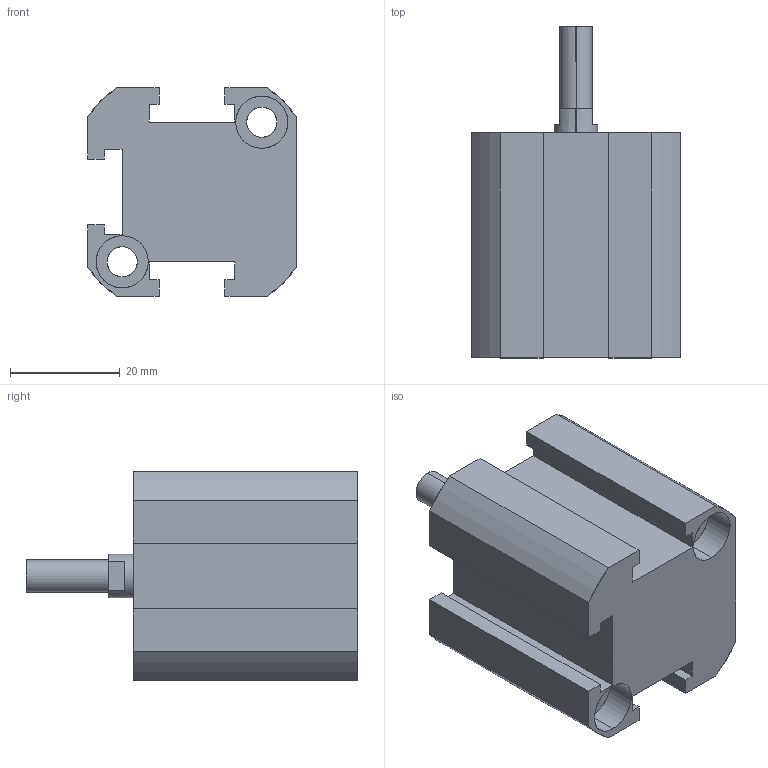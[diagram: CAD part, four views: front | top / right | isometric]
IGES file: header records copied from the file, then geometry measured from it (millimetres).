
Start section: SolidWorks IGES file using analytic representation for surfaces
Global section: file name: C:\Users\Toshiba\Desktop\XG#M2-20D-10.IGS; native system: SolidWorks 2014; preprocessor: SolidWorks 2014; author: Toshiba; date: 160524.101103; units: millimetre
Bounding box: 38 x 60.5 x 38 mm (x, y, z)
Surface area: 12975.3 mm2 (no closed solid volume)
Topology: 0 solids, 0 shells, 89 faces, 1289 edges, 1285 vertices
Faces by surface type: bspline 46, revolution 43
